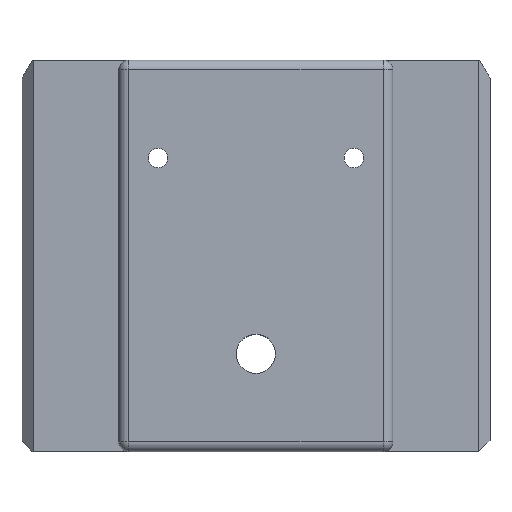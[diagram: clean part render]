
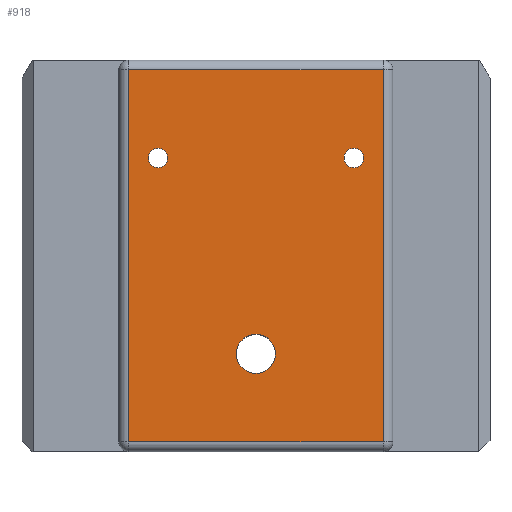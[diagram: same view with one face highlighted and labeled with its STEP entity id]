
A CAD part, top view. The second image highlights one B-rep face of the part: STEP entity #918.
In plain terms, the highlighted planar face has unit normal (0, 0, 1).
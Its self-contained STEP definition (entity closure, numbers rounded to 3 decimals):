
#259=DIRECTION('',(0.,-1.,0.));
#260=VECTOR('',#259,19.);
#261=CARTESIAN_POINT('',(-6.505,19.5,9.5));
#262=LINE('',#261,#260);
#273=DIRECTION('',(1.,0.,0.));
#274=VECTOR('',#273,13.);
#275=CARTESIAN_POINT('',(-6.505,0.5,9.5));
#276=LINE('',#275,#274);
#277=DIRECTION('',(1.,0.,0.));
#278=VECTOR('',#277,13.);
#279=CARTESIAN_POINT('',(-6.505,19.5,9.5));
#280=LINE('',#279,#278);
#281=DIRECTION('',(0.,-1.,0.));
#282=VECTOR('',#281,19.);
#283=CARTESIAN_POINT('',(6.495,19.5,9.5));
#284=LINE('',#283,#282);
#285=CARTESIAN_POINT('',(-0.005,5.,9.5));
#286=DIRECTION('',(0.,0.,1.));
#287=DIRECTION('',(1.,0.,0.));
#288=AXIS2_PLACEMENT_3D('',#285,#286,#287);
#290=CARTESIAN_POINT('',(-0.005,5.,9.5));
#291=DIRECTION('',(0.,0.,1.));
#292=DIRECTION('',(-1.,0.,0.));
#293=AXIS2_PLACEMENT_3D('',#290,#291,#292);
#295=CARTESIAN_POINT('',(-5.005,15.,9.5));
#296=DIRECTION('',(0.,0.,1.));
#297=DIRECTION('',(1.,0.,0.));
#298=AXIS2_PLACEMENT_3D('',#295,#296,#297);
#300=CARTESIAN_POINT('',(-5.005,15.,9.5));
#301=DIRECTION('',(0.,0.,1.));
#302=DIRECTION('',(-1.,0.,0.));
#303=AXIS2_PLACEMENT_3D('',#300,#301,#302);
#305=CARTESIAN_POINT('',(4.995,15.,9.5));
#306=DIRECTION('',(0.,0.,1.));
#307=DIRECTION('',(1.,0.,0.));
#308=AXIS2_PLACEMENT_3D('',#305,#306,#307);
#310=CARTESIAN_POINT('',(4.995,15.,9.5));
#311=DIRECTION('',(0.,0.,1.));
#312=DIRECTION('',(-1.,0.,0.));
#313=AXIS2_PLACEMENT_3D('',#310,#311,#312);
#425=CARTESIAN_POINT('',(6.495,0.5,9.5));
#426=VERTEX_POINT('',#425);
#427=CARTESIAN_POINT('',(-6.505,0.5,9.5));
#428=VERTEX_POINT('',#427);
#445=CARTESIAN_POINT('',(6.495,19.5,9.5));
#446=VERTEX_POINT('',#445);
#449=CARTESIAN_POINT('',(-6.505,19.5,9.5));
#450=VERTEX_POINT('',#449);
#477=CARTESIAN_POINT('',(0.995,5.,9.5));
#478=CARTESIAN_POINT('',(-1.005,5.,9.5));
#479=VERTEX_POINT('',#477);
#480=VERTEX_POINT('',#478);
#481=CARTESIAN_POINT('',(-4.505,15.,9.5));
#482=CARTESIAN_POINT('',(-5.505,15.,9.5));
#483=VERTEX_POINT('',#481);
#484=VERTEX_POINT('',#482);
#485=CARTESIAN_POINT('',(5.495,15.,9.5));
#486=CARTESIAN_POINT('',(4.495,15.,9.5));
#487=VERTEX_POINT('',#485);
#488=VERTEX_POINT('',#486);
#887=CARTESIAN_POINT('',(6.495,-15.05,9.5));
#888=DIRECTION('',(0.,0.,1.));
#889=DIRECTION('',(1.,0.,0.));
#890=AXIS2_PLACEMENT_3D('',#887,#888,#889);
#891=PLANE('',#890);
#892=ORIENTED_EDGE('',*,*,#878,.F.);
#893=ORIENTED_EDGE('',*,*,#855,.F.);
#895=ORIENTED_EDGE('',*,*,#894,.T.);
#897=ORIENTED_EDGE('',*,*,#896,.T.);
#898=EDGE_LOOP('',(#892,#893,#895,#897));
#899=FACE_OUTER_BOUND('',#898,.F.);
#901=ORIENTED_EDGE('',*,*,#900,.T.);
#903=ORIENTED_EDGE('',*,*,#902,.T.);
#904=EDGE_LOOP('',(#901,#903));
#905=FACE_BOUND('',#904,.F.);
#907=ORIENTED_EDGE('',*,*,#906,.T.);
#909=ORIENTED_EDGE('',*,*,#908,.T.);
#910=EDGE_LOOP('',(#907,#909));
#911=FACE_BOUND('',#910,.F.);
#913=ORIENTED_EDGE('',*,*,#912,.T.);
#915=ORIENTED_EDGE('',*,*,#914,.T.);
#916=EDGE_LOOP('',(#913,#915));
#917=FACE_BOUND('',#916,.F.);
#918=ADVANCED_FACE('',(#899,#905,#911,#917),#891,.T.);
#289=CIRCLE('',#288,1.);
#294=CIRCLE('',#293,1.);
#299=CIRCLE('',#298,0.5);
#304=CIRCLE('',#303,0.5);
#309=CIRCLE('',#308,0.5);
#314=CIRCLE('',#313,0.5);
#855=EDGE_CURVE('',#450,#428,#262,.T.);
#878=EDGE_CURVE('',#428,#426,#276,.T.);
#894=EDGE_CURVE('',#450,#446,#280,.T.);
#896=EDGE_CURVE('',#446,#426,#284,.T.);
#900=EDGE_CURVE('',#479,#480,#289,.T.);
#902=EDGE_CURVE('',#480,#479,#294,.T.);
#906=EDGE_CURVE('',#483,#484,#299,.T.);
#908=EDGE_CURVE('',#484,#483,#304,.T.);
#912=EDGE_CURVE('',#487,#488,#309,.T.);
#914=EDGE_CURVE('',#488,#487,#314,.T.);
